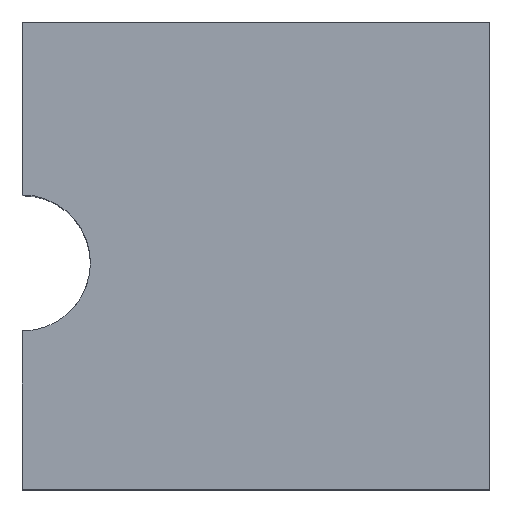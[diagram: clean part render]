
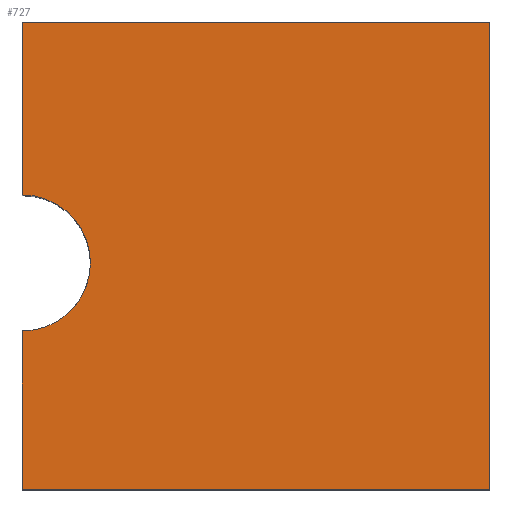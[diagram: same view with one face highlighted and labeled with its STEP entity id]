
A CAD part, top view. The second image highlights one B-rep face of the part: STEP entity #727.
In plain terms, the highlighted planar face has unit normal (0, 0, 1).
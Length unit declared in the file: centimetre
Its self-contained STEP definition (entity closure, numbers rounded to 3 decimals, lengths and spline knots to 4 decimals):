
#76 = LINE ( 'NONE', #675, #102 ) ;
#100 = CARTESIAN_POINT ( 'NONE',  ( 0., 0., 1000. ) ) ;
#102 = VECTOR ( 'NONE', #1575, 100. ) ;
#103 = DIRECTION ( 'NONE',  ( 0., 0., 1. ) ) ;
#117 = VERTEX_POINT ( 'NONE', #899 ) ;
#124 = LINE ( 'NONE', #624, #463 ) ;
#183 = CARTESIAN_POINT ( 'NONE',  ( 145.5523, 484.3428, 1000. ) ) ;
#230 = ORIENTED_EDGE ( 'NONE', *, *, #862, .T. ) ;
#245 = EDGE_CURVE ( 'NONE', #553, #726, #886, .T. ) ;
#250 = CARTESIAN_POINT ( 'NONE',  ( 0., 629.895, 1000. ) ) ;
#252 = VERTEX_POINT ( 'NONE', #183 ) ;
#268 = VECTOR ( 'NONE', #1299, 100. ) ;
#280 = ORIENTED_EDGE ( 'NONE', *, *, #849, .F. ) ;
#301 = CIRCLE ( 'NONE', #1599, 145.5523 ) ;
#313 = ORIENTED_EDGE ( 'NONE', *, *, #1218, .T. ) ;
#322 = ORIENTED_EDGE ( 'NONE', *, *, #245, .T. ) ;
#350 = DIRECTION ( 'NONE',  ( 0., 0., 1. ) ) ;
#363 = CARTESIAN_POINT ( 'NONE',  ( 0., 484.3428, 1000. ) ) ;
#385 = AXIS2_PLACEMENT_3D ( 'NONE', #100, #1077, #864 ) ;
#389 = CARTESIAN_POINT ( 'NONE',  ( 0., 0., 1000. ) ) ;
#458 = CARTESIAN_POINT ( 'NONE',  ( 1000., 1000., 1000. ) ) ;
#463 = VECTOR ( 'NONE', #837, 100. ) ;
#544 = VERTEX_POINT ( 'NONE', #1386 ) ;
#553 = VERTEX_POINT ( 'NONE', #1506 ) ;
#587 = EDGE_CURVE ( 'NONE', #544, #1524, #916, .T. ) ;
#606 = ORIENTED_EDGE ( 'NONE', *, *, #587, .T. ) ;
#624 = CARTESIAN_POINT ( 'NONE',  ( 0., 1000., 1000. ) ) ;
#659 = VECTOR ( 'NONE', #1250, 100. ) ;
#675 = CARTESIAN_POINT ( 'NONE',  ( 0., 1000., 1000. ) ) ;
#677 = VERTEX_POINT ( 'NONE', #1025 ) ;
#681 = CARTESIAN_POINT ( 'NONE',  ( 1000., 1000., 1000. ) ) ;
#713 = FACE_OUTER_BOUND ( 'NONE', #1311, .T. ) ;
#726 = VERTEX_POINT ( 'NONE', #250 ) ;
#727 = ADVANCED_FACE ( 'NONE', ( #713 ), #1207, .T. ) ;
#807 = CARTESIAN_POINT ( 'NONE',  ( 0., 1000., 1000. ) ) ;
#814 = DIRECTION ( 'NONE',  ( 0., 1., 0. ) ) ;
#837 = DIRECTION ( 'NONE',  ( -1., 0., 0. ) ) ;
#849 = EDGE_CURVE ( 'NONE', #252, #726, #301, .T. ) ;
#851 = DIRECTION ( 'NONE',  ( 1., 0., 0. ) ) ;
#854 = CARTESIAN_POINT ( 'NONE',  ( 0., 484.3428, 1000. ) ) ;
#862 = EDGE_CURVE ( 'NONE', #1524, #553, #124, .T. ) ;
#864 = DIRECTION ( 'NONE',  ( 1., 0., 0. ) ) ;
#867 = EDGE_CURVE ( 'NONE', #117, #544, #1336, .T. ) ;
#886 = LINE ( 'NONE', #807, #268 ) ;
#899 = CARTESIAN_POINT ( 'NONE',  ( 0., 0., 1000. ) ) ;
#916 = LINE ( 'NONE', #681, #1143 ) ;
#1025 = CARTESIAN_POINT ( 'NONE',  ( 0., 338.7905, 1000. ) ) ;
#1048 = ORIENTED_EDGE ( 'NONE', *, *, #1365, .F. ) ;
#1077 = DIRECTION ( 'NONE',  ( 0., 0., 1. ) ) ;
#1118 = CIRCLE ( 'NONE', #1568, 145.5523 ) ;
#1143 = VECTOR ( 'NONE', #814, 100. ) ;
#1207 = PLANE ( 'NONE',  #385 ) ;
#1218 = EDGE_CURVE ( 'NONE', #677, #117, #76, .T. ) ;
#1250 = DIRECTION ( 'NONE',  ( 1., 0., 0. ) ) ;
#1299 = DIRECTION ( 'NONE',  ( 0., -1., 0. ) ) ;
#1311 = EDGE_LOOP ( 'NONE', ( #1048, #313, #1488, #606, #230, #322, #280 ) ) ;
#1336 = LINE ( 'NONE', #389, #659 ) ;
#1365 = EDGE_CURVE ( 'NONE', #677, #252, #1118, .T. ) ;
#1386 = CARTESIAN_POINT ( 'NONE',  ( 1000., 0., 1000. ) ) ;
#1488 = ORIENTED_EDGE ( 'NONE', *, *, #867, .T. ) ;
#1506 = CARTESIAN_POINT ( 'NONE',  ( 0., 1000., 1000. ) ) ;
#1524 = VERTEX_POINT ( 'NONE', #458 ) ;
#1568 = AXIS2_PLACEMENT_3D ( 'NONE', #854, #103, #1582 ) ;
#1575 = DIRECTION ( 'NONE',  ( 0., -1., 0. ) ) ;
#1582 = DIRECTION ( 'NONE',  ( 1., 0., 0. ) ) ;
#1599 = AXIS2_PLACEMENT_3D ( 'NONE', #363, #350, #851 ) ;
